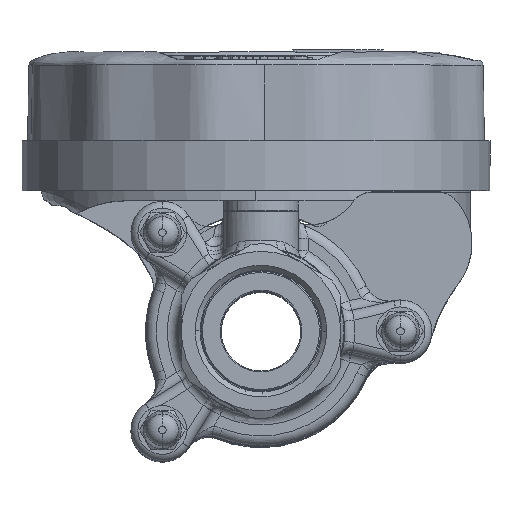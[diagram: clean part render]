
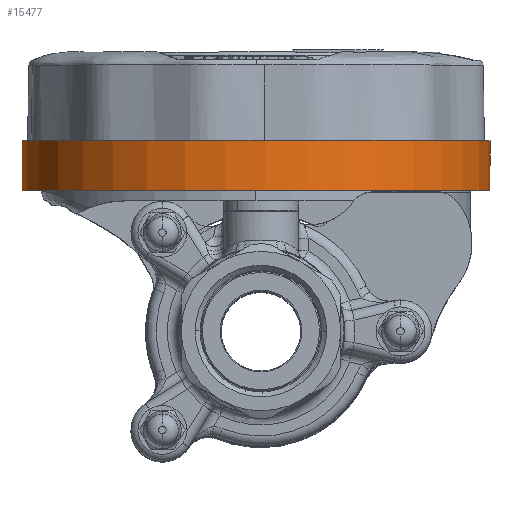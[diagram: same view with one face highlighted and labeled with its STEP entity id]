
A CAD part, top view. The second image highlights one B-rep face of the part: STEP entity #15477.
In plain terms, the highlighted cylindrical face has radius 47 mm (diameter 94 mm), a partial arc.
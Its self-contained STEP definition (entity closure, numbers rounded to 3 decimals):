
#9 = CARTESIAN_POINT ( 'NONE',  ( -47.963, 38.3, 10.965 ) ) ;
#652 = ORIENTED_EDGE ( 'NONE', *, *, #14162, .F. ) ;
#862 = CIRCLE ( 'NONE', #1312, 47. ) ;
#1312 = AXIS2_PLACEMENT_3D ( 'NONE', #11606, #11529, #11483 ) ;
#3464 = VERTEX_POINT ( 'NONE', #45820 ) ;
#10039 = LINE ( 'NONE', #31045, #44405 ) ;
#10086 = DIRECTION ( 'NONE',  ( -0.999, 0., 0.04 ) ) ;
#10463 = DIRECTION ( 'NONE',  ( -0.999, 0., 0.04 ) ) ;
#10495 = DIRECTION ( 'NONE',  ( 0., -1., 0. ) ) ;
#10510 = CARTESIAN_POINT ( 'NONE',  ( -1., 38.3, 9.1 ) ) ;
#10802 = CARTESIAN_POINT ( 'NONE',  ( -1., 38.3, 9.1 ) ) ;
#10870 = ORIENTED_EDGE ( 'NONE', *, *, #15141, .F. ) ;
#11114 = DIRECTION ( 'NONE',  ( 0., -1., 0. ) ) ;
#11483 = DIRECTION ( 'NONE',  ( -0.999, 0., 0.04 ) ) ;
#11529 = DIRECTION ( 'NONE',  ( 0., -1., 0. ) ) ;
#11606 = CARTESIAN_POINT ( 'NONE',  ( -1., 28.3, 9.1 ) ) ;
#14162 = EDGE_CURVE ( 'NONE', #50116, #38138, #862, .T. ) ;
#15141 = EDGE_CURVE ( 'NONE', #3464, #50116, #10039, .T. ) ;
#15477 = ADVANCED_FACE ( 'NONE', ( #42123 ), #36438, .T. ) ;
#16016 = EDGE_CURVE ( 'NONE', #40188, #38138, #30151, .T. ) ;
#18658 = AXIS2_PLACEMENT_3D ( 'NONE', #10802, #11114, #10086 ) ;
#22904 = EDGE_CURVE ( 'NONE', #3464, #40188, #28424, .T. ) ;
#28424 = CIRCLE ( 'NONE', #52550, 47. ) ;
#28731 = VECTOR ( 'NONE', #33894, 1000. ) ;
#30151 = LINE ( 'NONE', #33133, #28731 ) ;
#30963 = DIRECTION ( 'NONE',  ( 0., -1., 0. ) ) ;
#31045 = CARTESIAN_POINT ( 'NONE',  ( 45.963, 38.3, 7.235 ) ) ;
#33133 = CARTESIAN_POINT ( 'NONE',  ( -47.963, 38.3, 10.965 ) ) ;
#33894 = DIRECTION ( 'NONE',  ( 0., -1., 0. ) ) ;
#35381 = CARTESIAN_POINT ( 'NONE',  ( 45.963, 28.3, 7.235 ) ) ;
#36438 = CYLINDRICAL_SURFACE ( 'NONE', #18658, 47. ) ;
#38138 = VERTEX_POINT ( 'NONE', #53223 ) ;
#40188 = VERTEX_POINT ( 'NONE', #9 ) ;
#41354 = EDGE_LOOP ( 'NONE', ( #10870, #44679, #45171, #652 ) ) ;
#42123 = FACE_OUTER_BOUND ( 'NONE', #41354, .T. ) ;
#44405 = VECTOR ( 'NONE', #30963, 1000. ) ;
#44679 = ORIENTED_EDGE ( 'NONE', *, *, #22904, .T. ) ;
#45171 = ORIENTED_EDGE ( 'NONE', *, *, #16016, .T. ) ;
#45820 = CARTESIAN_POINT ( 'NONE',  ( 45.963, 38.3, 7.235 ) ) ;
#50116 = VERTEX_POINT ( 'NONE', #35381 ) ;
#52550 = AXIS2_PLACEMENT_3D ( 'NONE', #10510, #10495, #10463 ) ;
#53223 = CARTESIAN_POINT ( 'NONE',  ( -47.963, 28.3, 10.965 ) ) ;
